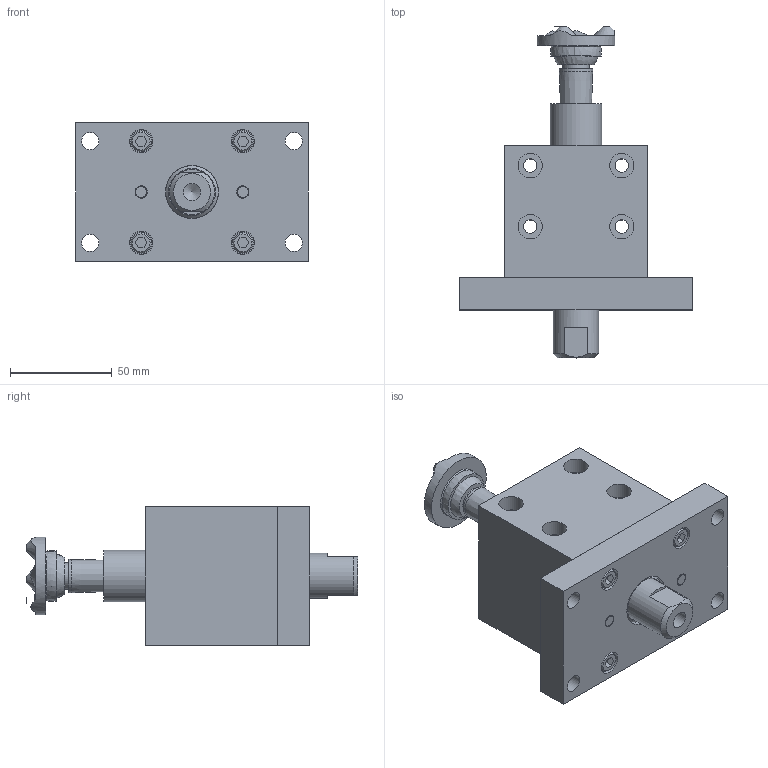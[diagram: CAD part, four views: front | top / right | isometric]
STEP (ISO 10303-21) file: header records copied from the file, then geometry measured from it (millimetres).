
FILE_DESCRIPTION(/* description */ ('PASS THRU GROUND UNIT'),/* implementation_level */ '2;1');
FILE_NAME(/* name */ 'C:\Vault Workspace\CAD\Welker\Cylinders\GBS\GBSD.stp',/* time_stamp */ '2021-06-24T14:08:46-04:00',/* author */ ('KPL'),/* organization */ (''),/* preprocessor_version */ 'ST-DEVELOPER v18.1',/* originating_system */ 'Autodesk Inventor 2020',/* authorisation */ '');
FILE_SCHEMA (('AUTOMOTIVE_DESIGN { 1 0 10303 214 3 1 1 }'));
Products named in the file (11): GBSL01; AN-09U2145; AN-07U2145; 6mmX25 ; M3X0.5-10 SHCS; M6X1-20 SHCS; NL6; GBPH25E150200; GBSE01; GBSE02; GBSE03
Assembly tree (17 placements, depth 2):
  GBSL01
    AN-09U2145
    AN-07U2145
    6mmX25   x2
    M3X0.5-10 SHCS
    M6X1-20 SHCS  x4
    NL6  x4
    GBPH25E150200
    GBSE01
    GBSE02
    GBSE03
Bounding box: 114.3 x 163.1 x 68 mm (x, y, z)
Volume: 411550.5 mm3; surface area: 91652 mm2
Topology: 17 solids, 17 shells, 221 faces, 521 edges, 367 vertices
Faces by surface type: plane 112, cylinder 70, cone 35, torus 2, sphere 2
Full cylindrical faces by diameter (mm): 3 x1, 4.917 x4, 5.5 x1, 6 x10, 6.5 x8, 6.647 x4, 8 x2, 8.376 x1, 8.5 x4, 9.525 x1, 10 x4, 10.8 x4, 11.5 x4, 12 x4, 13 x1, 15.875 x1, 16.364 x1, 22.225 x1, 22.352 x1, 25.4 x2, 25.984 x1, 26.162 x1, 28.575 x1, 29.134 x1, 29.159 x1, 29.185 x1, 32.258 x1, 32.309 x1, 36.5 x2, 38.1 x1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
Entity records: 5655 total; most frequent: DIRECTION 1011, CARTESIAN_POINT 923, ORIENTED_EDGE 792, AXIS2_PLACEMENT_3D 430, EDGE_CURVE 396, VERTEX_POINT 294, EDGE_LOOP 240, CIRCLE 240
